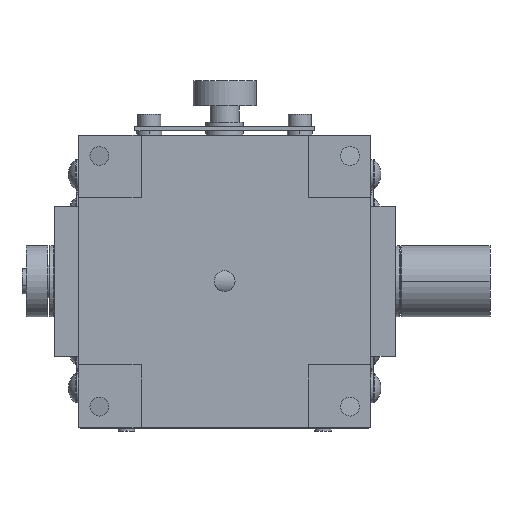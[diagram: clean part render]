
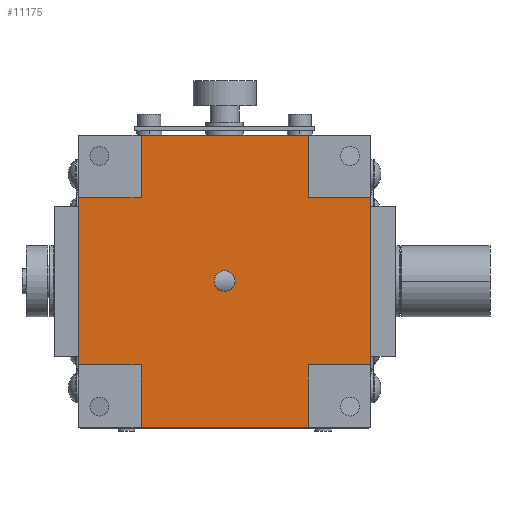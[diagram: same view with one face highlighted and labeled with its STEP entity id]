
A CAD part, front view. The second image highlights one B-rep face of the part: STEP entity #11175.
In plain terms, the highlighted planar face has unit normal (0, -1, 0).
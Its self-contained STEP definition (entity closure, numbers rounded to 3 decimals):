
#1 = ORIENTED_EDGE ( 'NONE', *, *, #7934, .T. ) ;
#116 = CARTESIAN_POINT ( 'NONE',  ( 20., 0.3, 35. ) ) ;
#130 = CARTESIAN_POINT ( 'NONE',  ( -20., 0.3, 35. ) ) ;
#237 = DIRECTION ( 'NONE',  ( 0., 0., -1. ) ) ;
#325 = VERTEX_POINT ( 'NONE', #3751 ) ;
#455 = LINE ( 'NONE', #14314, #821 ) ;
#821 = VECTOR ( 'NONE', #237, 1000. ) ;
#932 = LINE ( 'NONE', #1360, #4101 ) ;
#980 = ORIENTED_EDGE ( 'NONE', *, *, #13032, .T. ) ;
#1017 = LINE ( 'NONE', #130, #5508 ) ;
#1049 = DIRECTION ( 'NONE',  ( 0., 0., -1. ) ) ;
#1183 = CARTESIAN_POINT ( 'NONE',  ( 20., 0.3, -20. ) ) ;
#1258 = CARTESIAN_POINT ( 'NONE',  ( 0., 0.3, 0. ) ) ;
#1360 = CARTESIAN_POINT ( 'NONE',  ( 20., 0.3, -35. ) ) ;
#1364 = VECTOR ( 'NONE', #11503, 1000. ) ;
#1462 = CARTESIAN_POINT ( 'NONE',  ( 20., 0.3, 20. ) ) ;
#1699 = CARTESIAN_POINT ( 'NONE',  ( -20., 0.3, -35. ) ) ;
#1731 = DIRECTION ( 'NONE',  ( 0., 0., -1. ) ) ;
#2020 = PLANE ( 'NONE',  #10770 ) ;
#2030 = EDGE_CURVE ( 'NONE', #4063, #10510, #9327, .T. ) ;
#2162 = ORIENTED_EDGE ( 'NONE', *, *, #5260, .F. ) ;
#2357 = ORIENTED_EDGE ( 'NONE', *, *, #2586, .T. ) ;
#2450 = CARTESIAN_POINT ( 'NONE',  ( 0., 0.3, -2.465 ) ) ;
#2586 = EDGE_CURVE ( 'NONE', #10510, #3113, #932, .T. ) ;
#2719 = EDGE_LOOP ( 'NONE', ( #6586, #2162 ) ) ;
#2725 = ORIENTED_EDGE ( 'NONE', *, *, #15254, .T. ) ;
#2761 = CIRCLE ( 'NONE', #6131, 2.5 ) ;
#3113 = VERTEX_POINT ( 'NONE', #1183 ) ;
#3297 = VERTEX_POINT ( 'NONE', #4058 ) ;
#3567 = ORIENTED_EDGE ( 'NONE', *, *, #12354, .T. ) ;
#3693 = VECTOR ( 'NONE', #1731, 1000. ) ;
#3751 = CARTESIAN_POINT ( 'NONE',  ( -35., 0.3, 20. ) ) ;
#3934 = VERTEX_POINT ( 'NONE', #8224 ) ;
#4055 = VECTOR ( 'NONE', #12594, 1000. ) ;
#4058 = CARTESIAN_POINT ( 'NONE',  ( -20., 0.3, -20. ) ) ;
#4063 = VERTEX_POINT ( 'NONE', #14337 ) ;
#4101 = VECTOR ( 'NONE', #10966, 1000. ) ;
#4221 = CIRCLE ( 'NONE', #7018, 2.5 ) ;
#4253 = EDGE_CURVE ( 'NONE', #4255, #5390, #6329, .T. ) ;
#4255 = VERTEX_POINT ( 'NONE', #1462 ) ;
#4345 = CARTESIAN_POINT ( 'NONE',  ( 35., 0.3, 20. ) ) ;
#4347 = EDGE_CURVE ( 'NONE', #5109, #4255, #6686, .T. ) ;
#4414 = VERTEX_POINT ( 'NONE', #9272 ) ;
#4415 = LINE ( 'NONE', #7171, #3693 ) ;
#4774 = DIRECTION ( 'NONE',  ( 0., 0., 1. ) ) ;
#4775 = FACE_OUTER_BOUND ( 'NONE', #11936, .T. ) ;
#4922 = DIRECTION ( 'NONE',  ( -1., 0., 0. ) ) ;
#5109 = VERTEX_POINT ( 'NONE', #4345 ) ;
#5193 = EDGE_CURVE ( 'NONE', #4414, #325, #13468, .T. ) ;
#5260 = EDGE_CURVE ( 'NONE', #7278, #14059, #2761, .T. ) ;
#5390 = VERTEX_POINT ( 'NONE', #116 ) ;
#5429 = VERTEX_POINT ( 'NONE', #10765 ) ;
#5445 = ORIENTED_EDGE ( 'NONE', *, *, #2030, .T. ) ;
#5494 = VECTOR ( 'NONE', #4774, 1000. ) ;
#5495 = ORIENTED_EDGE ( 'NONE', *, *, #10691, .T. ) ;
#5508 = VECTOR ( 'NONE', #8637, 1000. ) ;
#5624 = CARTESIAN_POINT ( 'NONE',  ( -35., 0.3, -20. ) ) ;
#5627 = DIRECTION ( 'NONE',  ( 0., 0., -1. ) ) ;
#5735 = DIRECTION ( 'NONE',  ( 1., 0., 0. ) ) ;
#6131 = AXIS2_PLACEMENT_3D ( 'NONE', #9501, #8188, #1049 ) ;
#6290 = DIRECTION ( 'NONE',  ( 0., 0., 1. ) ) ;
#6329 = LINE ( 'NONE', #8601, #8727 ) ;
#6438 = DIRECTION ( 'NONE',  ( -1., 0., 0. ) ) ;
#6586 = ORIENTED_EDGE ( 'NONE', *, *, #11216, .F. ) ;
#6686 = LINE ( 'NONE', #13509, #7439 ) ;
#6888 = ORIENTED_EDGE ( 'NONE', *, *, #12610, .T. ) ;
#6992 = LINE ( 'NONE', #12748, #11428 ) ;
#7018 = AXIS2_PLACEMENT_3D ( 'NONE', #10241, #11409, #5627 ) ;
#7171 = CARTESIAN_POINT ( 'NONE',  ( -20., 0.3, 20. ) ) ;
#7262 = DIRECTION ( 'NONE',  ( 0., 1., 0. ) ) ;
#7278 = VERTEX_POINT ( 'NONE', #12141 ) ;
#7439 = VECTOR ( 'NONE', #6438, 1000. ) ;
#7934 = EDGE_CURVE ( 'NONE', #3297, #4063, #15016, .T. ) ;
#8108 = ORIENTED_EDGE ( 'NONE', *, *, #4347, .T. ) ;
#8188 = DIRECTION ( 'NONE',  ( 0., -1., 0. ) ) ;
#8224 = CARTESIAN_POINT ( 'NONE',  ( 35., 0.3, -20. ) ) ;
#8265 = CARTESIAN_POINT ( 'NONE',  ( 35., 0.3, 20. ) ) ;
#8601 = CARTESIAN_POINT ( 'NONE',  ( 20., 0.3, 20. ) ) ;
#8637 = DIRECTION ( 'NONE',  ( -1., 0., 0. ) ) ;
#8727 = VECTOR ( 'NONE', #6290, 1000. ) ;
#9272 = CARTESIAN_POINT ( 'NONE',  ( -20., 0.3, 20. ) ) ;
#9327 = LINE ( 'NONE', #13484, #15171 ) ;
#9501 = CARTESIAN_POINT ( 'NONE',  ( 0., 0.3, 0.035 ) ) ;
#10047 = DIRECTION ( 'NONE',  ( 0., 0., -1. ) ) ;
#10241 = CARTESIAN_POINT ( 'NONE',  ( 0., 0.3, 0.035 ) ) ;
#10510 = VERTEX_POINT ( 'NONE', #12723 ) ;
#10691 = EDGE_CURVE ( 'NONE', #14718, #4414, #4415, .T. ) ;
#10765 = CARTESIAN_POINT ( 'NONE',  ( -35., 0.3, -20. ) ) ;
#10770 = AXIS2_PLACEMENT_3D ( 'NONE', #1258, #7262, #4922 ) ;
#10858 = LINE ( 'NONE', #8265, #5494 ) ;
#10966 = DIRECTION ( 'NONE',  ( 0., 0., 1. ) ) ;
#11175 = ADVANCED_FACE ( 'NONE', ( #14175, #4775 ), #2020, .F. ) ;
#11216 = EDGE_CURVE ( 'NONE', #14059, #7278, #4221, .T. ) ;
#11409 = DIRECTION ( 'NONE',  ( 0., -1., 0. ) ) ;
#11428 = VECTOR ( 'NONE', #5735, 1000. ) ;
#11442 = ORIENTED_EDGE ( 'NONE', *, *, #5193, .T. ) ;
#11503 = DIRECTION ( 'NONE',  ( 1., 0., 0. ) ) ;
#11574 = ORIENTED_EDGE ( 'NONE', *, *, #12368, .T. ) ;
#11626 = CARTESIAN_POINT ( 'NONE',  ( -20., 0.3, 35. ) ) ;
#11638 = CARTESIAN_POINT ( 'NONE',  ( -35., 0.3, 20. ) ) ;
#11936 = EDGE_LOOP ( 'NONE', ( #2725, #6888, #8108, #13576, #3567, #5495, #11442, #11574, #980, #1, #5445, #2357 ) ) ;
#12141 = CARTESIAN_POINT ( 'NONE',  ( 0., 0.3, 2.535 ) ) ;
#12354 = EDGE_CURVE ( 'NONE', #5390, #14718, #1017, .T. ) ;
#12368 = EDGE_CURVE ( 'NONE', #325, #5429, #455, .T. ) ;
#12594 = DIRECTION ( 'NONE',  ( -1., 0., 0. ) ) ;
#12610 = EDGE_CURVE ( 'NONE', #3934, #5109, #10858, .T. ) ;
#12723 = CARTESIAN_POINT ( 'NONE',  ( 20., 0.3, -35. ) ) ;
#12748 = CARTESIAN_POINT ( 'NONE',  ( 20., 0.3, -20. ) ) ;
#12991 = VECTOR ( 'NONE', #10047, 1000. ) ;
#13032 = EDGE_CURVE ( 'NONE', #5429, #3297, #14857, .T. ) ;
#13468 = LINE ( 'NONE', #11638, #4055 ) ;
#13484 = CARTESIAN_POINT ( 'NONE',  ( -20., 0.3, -35. ) ) ;
#13509 = CARTESIAN_POINT ( 'NONE',  ( 20., 0.3, 20. ) ) ;
#13530 = DIRECTION ( 'NONE',  ( 1., 0., 0. ) ) ;
#13576 = ORIENTED_EDGE ( 'NONE', *, *, #4253, .T. ) ;
#14059 = VERTEX_POINT ( 'NONE', #2450 ) ;
#14175 = FACE_BOUND ( 'NONE', #2719, .T. ) ;
#14314 = CARTESIAN_POINT ( 'NONE',  ( -35., 0.3, 20. ) ) ;
#14337 = CARTESIAN_POINT ( 'NONE',  ( -20., 0.3, -35. ) ) ;
#14718 = VERTEX_POINT ( 'NONE', #11626 ) ;
#14857 = LINE ( 'NONE', #5624, #1364 ) ;
#15016 = LINE ( 'NONE', #1699, #12991 ) ;
#15171 = VECTOR ( 'NONE', #13530, 1000. ) ;
#15254 = EDGE_CURVE ( 'NONE', #3113, #3934, #6992, .T. ) ;
